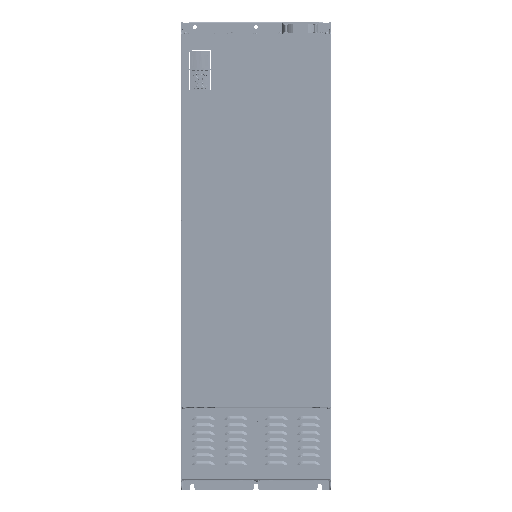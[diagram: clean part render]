
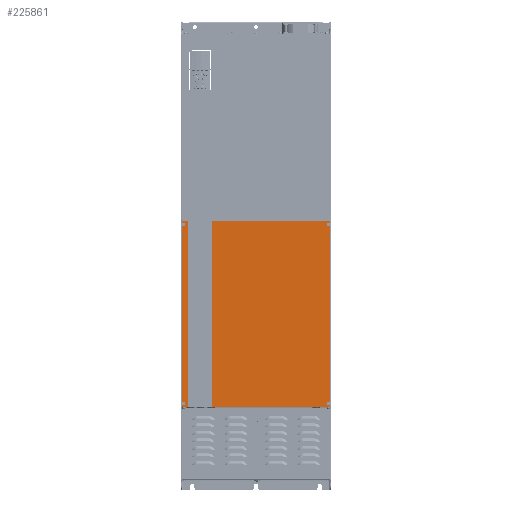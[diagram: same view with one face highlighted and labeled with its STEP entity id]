
A CAD part, top view. The second image highlights one B-rep face of the part: STEP entity #225861.
In plain terms, the highlighted planar face has unit normal (0, 0, 1).
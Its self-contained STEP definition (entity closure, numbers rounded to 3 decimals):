
#224439=CARTESIAN_POINT('',(250.35,626.75,0.));
#224440=DIRECTION('',(0.,0.,-1.));
#224441=DIRECTION('',(1.,0.,0.));
#224442=AXIS2_PLACEMENT_3D('',#224439,#224440,#224441);
#224447=DIRECTION('',(0.,1.,0.));
#224448=VECTOR('',#224447,626.75);
#224449=CARTESIAN_POINT('',(-250.6,0.,0.));
#224450=LINE('',#224449,#224448);
#224454=CARTESIAN_POINT('',(-250.35,626.75,0.));
#224455=DIRECTION('',(0.,0.,1.));
#224456=DIRECTION('',(-1.,0.,0.));
#224457=AXIS2_PLACEMENT_3D('',#224454,#224455,#224456);
#224462=CARTESIAN_POINT('',(244.6,616.5,0.));
#224463=DIRECTION('',(0.,0.,1.));
#224464=DIRECTION('',(-1.,0.,0.));
#224465=AXIS2_PLACEMENT_3D('',#224462,#224463,#224464);
#224470=CARTESIAN_POINT('',(244.6,616.5,0.));
#224471=DIRECTION('',(0.,0.,1.));
#224472=DIRECTION('',(1.,0.,0.));
#224473=AXIS2_PLACEMENT_3D('',#224470,#224471,#224472);
#224478=CARTESIAN_POINT('',(-244.6,616.5,0.));
#224479=DIRECTION('',(0.,0.,1.));
#224480=DIRECTION('',(-1.,0.,0.));
#224481=AXIS2_PLACEMENT_3D('',#224478,#224479,#224480);
#224486=CARTESIAN_POINT('',(-244.6,616.5,0.));
#224487=DIRECTION('',(0.,0.,1.));
#224488=DIRECTION('',(1.,0.,0.));
#224489=AXIS2_PLACEMENT_3D('',#224486,#224487,#224488);
#224494=CARTESIAN_POINT('',(-244.6,13.,0.));
#224495=DIRECTION('',(0.,0.,1.));
#224496=DIRECTION('',(-1.,0.,0.));
#224497=AXIS2_PLACEMENT_3D('',#224494,#224495,#224496);
#224502=CARTESIAN_POINT('',(-244.6,13.,0.));
#224503=DIRECTION('',(0.,0.,1.));
#224504=DIRECTION('',(1.,0.,0.));
#224505=AXIS2_PLACEMENT_3D('',#224502,#224503,#224504);
#224510=CARTESIAN_POINT('',(244.6,13.,0.));
#224511=DIRECTION('',(0.,0.,1.));
#224512=DIRECTION('',(-1.,0.,0.));
#224513=AXIS2_PLACEMENT_3D('',#224510,#224511,#224512);
#224518=CARTESIAN_POINT('',(244.6,13.,0.));
#224519=DIRECTION('',(0.,0.,1.));
#224520=DIRECTION('',(1.,0.,0.));
#224521=AXIS2_PLACEMENT_3D('',#224518,#224519,#224520);
#224526=DIRECTION('',(0.,-1.,0.));
#224527=VECTOR('',#224526,7.);
#224528=CARTESIAN_POINT('',(-228.85,27.,0.));
#224529=LINE('',#224528,#224527);
#224533=DIRECTION('',(1.,0.,0.));
#224534=VECTOR('',#224533,7.);
#224535=CARTESIAN_POINT('',(-228.85,20.,0.));
#224536=LINE('',#224535,#224534);
#224540=DIRECTION('',(0.,1.,0.));
#224541=VECTOR('',#224540,1.);
#224542=CARTESIAN_POINT('',(-221.85,20.,0.));
#224543=LINE('',#224542,#224541);
#224547=DIRECTION('',(-1.,0.,0.));
#224548=VECTOR('',#224547,6.);
#224549=CARTESIAN_POINT('',(-221.85,21.,0.));
#224550=LINE('',#224549,#224548);
#224554=DIRECTION('',(0.,1.,0.));
#224555=VECTOR('',#224554,6.);
#224556=CARTESIAN_POINT('',(-227.85,21.,0.));
#224557=LINE('',#224556,#224555);
#224561=DIRECTION('',(-1.,0.,0.));
#224562=VECTOR('',#224561,1.);
#224563=CARTESIAN_POINT('',(-227.85,27.,0.));
#224564=LINE('',#224563,#224562);
#224568=DIRECTION('',(-1.,0.,0.));
#224569=VECTOR('',#224568,7.);
#224570=CARTESIAN_POINT('',(-221.85,609.5,0.));
#224571=LINE('',#224570,#224569);
#224575=DIRECTION('',(0.,-1.,0.));
#224576=VECTOR('',#224575,7.);
#224577=CARTESIAN_POINT('',(-228.85,609.5,0.));
#224578=LINE('',#224577,#224576);
#224582=DIRECTION('',(1.,0.,0.));
#224583=VECTOR('',#224582,1.);
#224584=CARTESIAN_POINT('',(-228.85,602.5,0.));
#224585=LINE('',#224584,#224583);
#224589=DIRECTION('',(0.,1.,0.));
#224590=VECTOR('',#224589,6.);
#224591=CARTESIAN_POINT('',(-227.85,602.5,0.));
#224592=LINE('',#224591,#224590);
#224596=DIRECTION('',(1.,0.,0.));
#224597=VECTOR('',#224596,6.);
#224598=CARTESIAN_POINT('',(-227.85,608.5,0.));
#224599=LINE('',#224598,#224597);
#224603=DIRECTION('',(0.,1.,0.));
#224604=VECTOR('',#224603,1.);
#224605=CARTESIAN_POINT('',(-221.85,608.5,0.));
#224606=LINE('',#224605,#224604);
#224610=DIRECTION('',(-1.,0.,0.));
#224611=VECTOR('',#224610,500.7);
#224612=CARTESIAN_POINT('',(250.35,626.5,0.));
#224613=LINE('',#224612,#224611);
#225090=DIRECTION('',(0.,1.,0.));
#225091=VECTOR('',#225090,626.75);
#225092=CARTESIAN_POINT('',(250.6,0.,0.));
#225093=LINE('',#225092,#225091);
#225250=DIRECTION('',(1.,0.,0.));
#225251=VECTOR('',#225250,501.2);
#225252=CARTESIAN_POINT('',(-250.6,0.,0.));
#225253=LINE('',#225252,#225251);
#225496=CARTESIAN_POINT('',(-250.6,0.,0.));
#225498=VERTEX_POINT('',#225496);
#225499=CARTESIAN_POINT('',(250.6,0.,0.));
#225500=VERTEX_POINT('',#225499);
#225531=CARTESIAN_POINT('',(-228.85,27.,0.));
#225532=VERTEX_POINT('',#225531);
#225533=CARTESIAN_POINT('',(-228.85,20.,0.));
#225534=VERTEX_POINT('',#225533);
#225535=CARTESIAN_POINT('',(-221.85,20.,0.));
#225536=VERTEX_POINT('',#225535);
#225537=CARTESIAN_POINT('',(-221.85,21.,0.));
#225538=VERTEX_POINT('',#225537);
#225539=CARTESIAN_POINT('',(-227.85,21.,0.));
#225540=VERTEX_POINT('',#225539);
#225541=CARTESIAN_POINT('',(-227.85,27.,0.));
#225542=VERTEX_POINT('',#225541);
#225555=CARTESIAN_POINT('',(-221.85,609.5,0.));
#225556=VERTEX_POINT('',#225555);
#225557=CARTESIAN_POINT('',(-228.85,609.5,0.));
#225558=VERTEX_POINT('',#225557);
#225559=CARTESIAN_POINT('',(-228.85,602.5,0.));
#225560=VERTEX_POINT('',#225559);
#225561=CARTESIAN_POINT('',(-227.85,602.5,0.));
#225562=VERTEX_POINT('',#225561);
#225563=CARTESIAN_POINT('',(-227.85,608.5,0.));
#225564=VERTEX_POINT('',#225563);
#225565=CARTESIAN_POINT('',(-221.85,608.5,0.));
#225566=VERTEX_POINT('',#225565);
#225567=CARTESIAN_POINT('',(242.3,616.5,0.));
#225568=CARTESIAN_POINT('',(246.9,616.5,0.));
#225569=VERTEX_POINT('',#225567);
#225570=VERTEX_POINT('',#225568);
#225571=CARTESIAN_POINT('',(-246.9,616.5,0.));
#225572=CARTESIAN_POINT('',(-242.3,616.5,0.));
#225573=VERTEX_POINT('',#225571);
#225574=VERTEX_POINT('',#225572);
#225575=CARTESIAN_POINT('',(-246.9,13.,0.));
#225576=CARTESIAN_POINT('',(-242.3,13.,0.));
#225577=VERTEX_POINT('',#225575);
#225578=VERTEX_POINT('',#225576);
#225579=CARTESIAN_POINT('',(242.3,13.,0.));
#225580=CARTESIAN_POINT('',(246.9,13.,0.));
#225581=VERTEX_POINT('',#225579);
#225582=VERTEX_POINT('',#225580);
#225607=CARTESIAN_POINT('',(-250.6,626.75,0.));
#225608=VERTEX_POINT('',#225607);
#225611=CARTESIAN_POINT('',(250.6,626.75,0.));
#225613=VERTEX_POINT('',#225611);
#225617=CARTESIAN_POINT('',(250.35,626.5,0.));
#225618=VERTEX_POINT('',#225617);
#225621=CARTESIAN_POINT('',(-250.35,626.5,0.));
#225622=VERTEX_POINT('',#225621);
#225791=CARTESIAN_POINT('',(-250.6,0.,0.));
#225792=DIRECTION('',(0.,0.,1.));
#225793=DIRECTION('',(1.,0.,0.));
#225794=AXIS2_PLACEMENT_3D('',#225791,#225792,#225793);
#225795=PLANE('',#225794);
#225797=ORIENTED_EDGE('',*,*,#225796,.F.);
#225799=ORIENTED_EDGE('',*,*,#225798,.F.);
#225801=ORIENTED_EDGE('',*,*,#225800,.F.);
#225803=ORIENTED_EDGE('',*,*,#225802,.F.);
#225804=ORIENTED_EDGE('',*,*,#225780,.T.);
#225806=ORIENTED_EDGE('',*,*,#225805,.T.);
#225807=EDGE_LOOP('',(#225797,#225799,#225801,#225803,#225804,#225806));
#225808=FACE_OUTER_BOUND('',#225807,.F.);
#225810=ORIENTED_EDGE('',*,*,#225809,.T.);
#225812=ORIENTED_EDGE('',*,*,#225811,.T.);
#225813=EDGE_LOOP('',(#225810,#225812));
#225814=FACE_BOUND('',#225813,.F.);
#225816=ORIENTED_EDGE('',*,*,#225815,.T.);
#225818=ORIENTED_EDGE('',*,*,#225817,.T.);
#225819=EDGE_LOOP('',(#225816,#225818));
#225820=FACE_BOUND('',#225819,.F.);
#225822=ORIENTED_EDGE('',*,*,#225821,.T.);
#225824=ORIENTED_EDGE('',*,*,#225823,.T.);
#225825=EDGE_LOOP('',(#225822,#225824));
#225826=FACE_BOUND('',#225825,.F.);
#225828=ORIENTED_EDGE('',*,*,#225827,.T.);
#225830=ORIENTED_EDGE('',*,*,#225829,.T.);
#225831=EDGE_LOOP('',(#225828,#225830));
#225832=FACE_BOUND('',#225831,.F.);
#225834=ORIENTED_EDGE('',*,*,#225833,.T.);
#225836=ORIENTED_EDGE('',*,*,#225835,.T.);
#225838=ORIENTED_EDGE('',*,*,#225837,.T.);
#225840=ORIENTED_EDGE('',*,*,#225839,.T.);
#225842=ORIENTED_EDGE('',*,*,#225841,.T.);
#225844=ORIENTED_EDGE('',*,*,#225843,.T.);
#225845=EDGE_LOOP('',(#225834,#225836,#225838,#225840,#225842,#225844));
#225846=FACE_BOUND('',#225845,.F.);
#225848=ORIENTED_EDGE('',*,*,#225847,.T.);
#225850=ORIENTED_EDGE('',*,*,#225849,.T.);
#225852=ORIENTED_EDGE('',*,*,#225851,.T.);
#225854=ORIENTED_EDGE('',*,*,#225853,.T.);
#225856=ORIENTED_EDGE('',*,*,#225855,.T.);
#225858=ORIENTED_EDGE('',*,*,#225857,.T.);
#225859=EDGE_LOOP('',(#225848,#225850,#225852,#225854,#225856,#225858));
#225860=FACE_BOUND('',#225859,.F.);
#225861=ADVANCED_FACE('',(#225808,#225814,#225820,#225826,#225832,#225846,
#225860),#225795,.T.);
#224443=CIRCLE('',#224442,0.25);
#224458=CIRCLE('',#224457,0.25);
#224466=CIRCLE('',#224465,2.3);
#224474=CIRCLE('',#224473,2.3);
#224482=CIRCLE('',#224481,2.3);
#224490=CIRCLE('',#224489,2.3);
#224498=CIRCLE('',#224497,2.3);
#224506=CIRCLE('',#224505,2.3);
#224514=CIRCLE('',#224513,2.3);
#224522=CIRCLE('',#224521,2.3);
#225780=EDGE_CURVE('',#225498,#225608,#224450,.T.);
#225796=EDGE_CURVE('',#225618,#225622,#224613,.T.);
#225798=EDGE_CURVE('',#225613,#225618,#224443,.T.);
#225800=EDGE_CURVE('',#225500,#225613,#225093,.T.);
#225802=EDGE_CURVE('',#225498,#225500,#225253,.T.);
#225805=EDGE_CURVE('',#225608,#225622,#224458,.T.);
#225809=EDGE_CURVE('',#225569,#225570,#224466,.T.);
#225811=EDGE_CURVE('',#225570,#225569,#224474,.T.);
#225815=EDGE_CURVE('',#225573,#225574,#224482,.T.);
#225817=EDGE_CURVE('',#225574,#225573,#224490,.T.);
#225821=EDGE_CURVE('',#225577,#225578,#224498,.T.);
#225823=EDGE_CURVE('',#225578,#225577,#224506,.T.);
#225827=EDGE_CURVE('',#225581,#225582,#224514,.T.);
#225829=EDGE_CURVE('',#225582,#225581,#224522,.T.);
#225833=EDGE_CURVE('',#225532,#225534,#224529,.T.);
#225835=EDGE_CURVE('',#225534,#225536,#224536,.T.);
#225837=EDGE_CURVE('',#225536,#225538,#224543,.T.);
#225839=EDGE_CURVE('',#225538,#225540,#224550,.T.);
#225841=EDGE_CURVE('',#225540,#225542,#224557,.T.);
#225843=EDGE_CURVE('',#225542,#225532,#224564,.T.);
#225847=EDGE_CURVE('',#225556,#225558,#224571,.T.);
#225849=EDGE_CURVE('',#225558,#225560,#224578,.T.);
#225851=EDGE_CURVE('',#225560,#225562,#224585,.T.);
#225853=EDGE_CURVE('',#225562,#225564,#224592,.T.);
#225855=EDGE_CURVE('',#225564,#225566,#224599,.T.);
#225857=EDGE_CURVE('',#225566,#225556,#224606,.T.);
